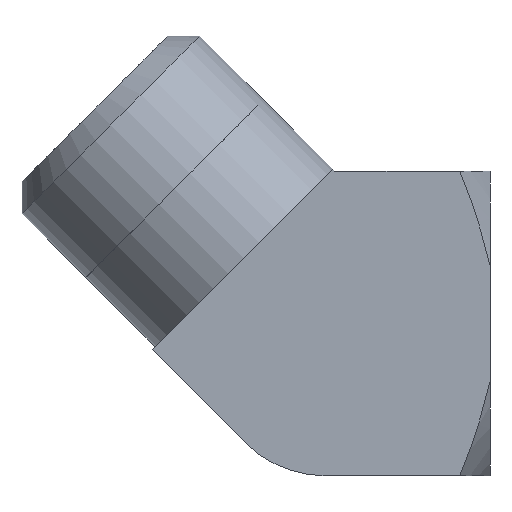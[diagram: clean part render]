
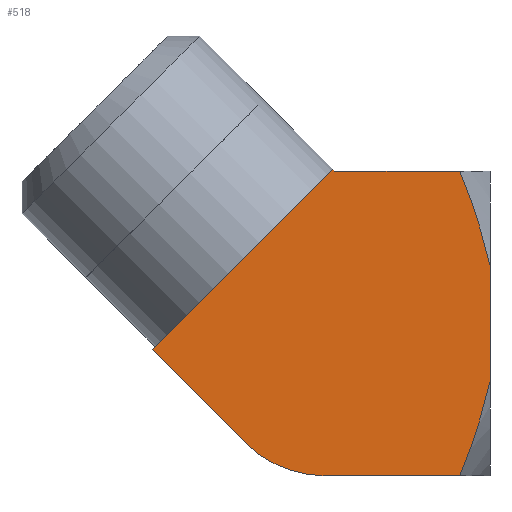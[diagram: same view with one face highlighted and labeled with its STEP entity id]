
A CAD part, front view. The second image highlights one B-rep face of the part: STEP entity #518.
In plain terms, the highlighted planar face has unit normal (0, -1, 0).
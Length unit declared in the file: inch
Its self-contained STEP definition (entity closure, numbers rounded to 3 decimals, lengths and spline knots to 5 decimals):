
#19=(
BOUNDED_CURVE()
B_SPLINE_CURVE(2,(#825,#826,#827),.UNSPECIFIED.,.F.,.F.)
B_SPLINE_CURVE_WITH_KNOTS((3,3),(0.,0.6737),.UNSPECIFIED.)
CURVE()
GEOMETRIC_REPRESENTATION_ITEM()
RATIONAL_B_SPLINE_CURVE((1.,1.033,1.))
REPRESENTATION_ITEM('')
);
#20=(
BOUNDED_CURVE()
B_SPLINE_CURVE(2,(#829,#830,#831),.UNSPECIFIED.,.F.,.F.)
B_SPLINE_CURVE_WITH_KNOTS((3,3),(0.,0.6737),.UNSPECIFIED.)
CURVE()
GEOMETRIC_REPRESENTATION_ITEM()
RATIONAL_B_SPLINE_CURVE((1.,1.033,1.))
REPRESENTATION_ITEM('')
);
#33=PLANE('',#573);
#57=FACE_OUTER_BOUND('',#88,.T.);
#88=EDGE_LOOP('',(#376,#377,#378,#379,#380,#381,#382,#383,#384,#385,#386));
#120=LINE('',#801,#156);
#124=LINE('',#818,#160);
#127=LINE('',#824,#163);
#128=LINE('',#833,#164);
#129=LINE('',#835,#165);
#130=LINE('',#837,#166);
#131=LINE('',#839,#167);
#132=LINE('',#840,#168);
#156=VECTOR('',#643,0.3937);
#160=VECTOR('',#659,0.3937);
#163=VECTOR('',#664,0.3937);
#164=VECTOR('',#665,0.3937);
#165=VECTOR('',#666,0.3937);
#166=VECTOR('',#667,0.3937);
#167=VECTOR('',#668,0.3937);
#168=VECTOR('',#669,0.3937);
#198=CIRCLE('',#571,0.3);
#227=VERTEX_POINT('',#798);
#228=VERTEX_POINT('',#800);
#233=VERTEX_POINT('',#811);
#234=VERTEX_POINT('',#813);
#235=VERTEX_POINT('',#817);
#237=VERTEX_POINT('',#823);
#238=VERTEX_POINT('',#828);
#239=VERTEX_POINT('',#832);
#240=VERTEX_POINT('',#834);
#241=VERTEX_POINT('',#836);
#242=VERTEX_POINT('',#838);
#281=EDGE_CURVE('',#227,#228,#120,.T.);
#287=EDGE_CURVE('',#233,#234,#198,.T.);
#289=EDGE_CURVE('',#234,#235,#124,.T.);
#292=EDGE_CURVE('',#237,#233,#127,.T.);
#293=EDGE_CURVE('',#228,#237,#19,.T.);
#294=EDGE_CURVE('',#238,#227,#20,.T.);
#295=EDGE_CURVE('',#239,#238,#128,.T.);
#296=EDGE_CURVE('',#240,#239,#129,.T.);
#297=EDGE_CURVE('',#240,#241,#130,.T.);
#298=EDGE_CURVE('',#241,#242,#131,.T.);
#299=EDGE_CURVE('',#242,#235,#132,.T.);
#376=ORIENTED_EDGE('',*,*,#287,.F.);
#377=ORIENTED_EDGE('',*,*,#292,.F.);
#378=ORIENTED_EDGE('',*,*,#293,.F.);
#379=ORIENTED_EDGE('',*,*,#281,.F.);
#380=ORIENTED_EDGE('',*,*,#294,.F.);
#381=ORIENTED_EDGE('',*,*,#295,.F.);
#382=ORIENTED_EDGE('',*,*,#296,.F.);
#383=ORIENTED_EDGE('',*,*,#297,.T.);
#384=ORIENTED_EDGE('',*,*,#298,.T.);
#385=ORIENTED_EDGE('',*,*,#299,.T.);
#386=ORIENTED_EDGE('',*,*,#289,.F.);
#518=ADVANCED_FACE('',(#57),#33,.F.);
#571=AXIS2_PLACEMENT_3D('',#814,#654,#655);
#573=AXIS2_PLACEMENT_3D('',#822,#662,#663);
#643=DIRECTION('',(0.,0.,-1.));
#654=DIRECTION('center_axis',(0.,1.,0.));
#655=DIRECTION('ref_axis',(-0.383,0.,-0.924));
#659=DIRECTION('',(-0.707,0.,0.707));
#662=DIRECTION('center_axis',(0.,1.,0.));
#663=DIRECTION('ref_axis',(1.,0.,0.));
#664=DIRECTION('',(-1.,0.,0.));
#665=DIRECTION('',(1.,0.,0.));
#666=DIRECTION('',(0.,0.,-1.));
#667=DIRECTION('',(-1.,0.,0.));
#668=DIRECTION('',(-0.707,0.,0.707));
#669=DIRECTION('',(-0.707,0.,-0.707));
#798=CARTESIAN_POINT('',(0.645,0.,0.15335));
#800=CARTESIAN_POINT('',(0.645,0.,-0.15368));
#801=CARTESIAN_POINT('',(0.645,0.,0.20275));
#811=CARTESIAN_POINT('',(0.20554,0.,-0.406));
#813=CARTESIAN_POINT('',(-0.00659,0.,-0.31813));
#814=CARTESIAN_POINT('Origin',(0.20554,0.,-0.106));
#817=CARTESIAN_POINT('',(-0.25468,0.,-0.07005));
#818=CARTESIAN_POINT('',(0.08128,0.,-0.406));
#822=CARTESIAN_POINT('Origin',(-0.05,0.,0.20109));
#823=CARTESIAN_POINT('',(0.56417,0.,-0.406));
#824=CARTESIAN_POINT('',(0.545,0.,-0.406));
#825=CARTESIAN_POINT('Ctrl Pts',(0.645,0.,-0.15368));
#826=CARTESIAN_POINT('Ctrl Pts',(0.62282,0.,
-0.26232));
#827=CARTESIAN_POINT('Ctrl Pts',(0.56417,0.,
-0.406));
#828=CARTESIAN_POINT('',(0.56417,0.,0.40567));
#829=CARTESIAN_POINT('Ctrl Pts',(0.56417,0.,
0.40567));
#830=CARTESIAN_POINT('Ctrl Pts',(0.62282,0.,
0.26199));
#831=CARTESIAN_POINT('Ctrl Pts',(0.645,0.,0.15335));
#832=CARTESIAN_POINT('',(0.545,0.,0.40567));
#833=CARTESIAN_POINT('',(0.545,0.,0.40567));
#834=CARTESIAN_POINT('',(0.545,0.,0.406));
#835=CARTESIAN_POINT('',(0.545,0.,0.));
#836=CARTESIAN_POINT('',(0.23094,0.,0.406));
#837=CARTESIAN_POINT('',(0.545,0.,0.406));
#838=CARTESIAN_POINT('',(0.22616,0.,0.41079));
#839=CARTESIAN_POINT('',(0.23094,0.,0.406));
#840=CARTESIAN_POINT('',(-0.01375,0.,0.17088));
